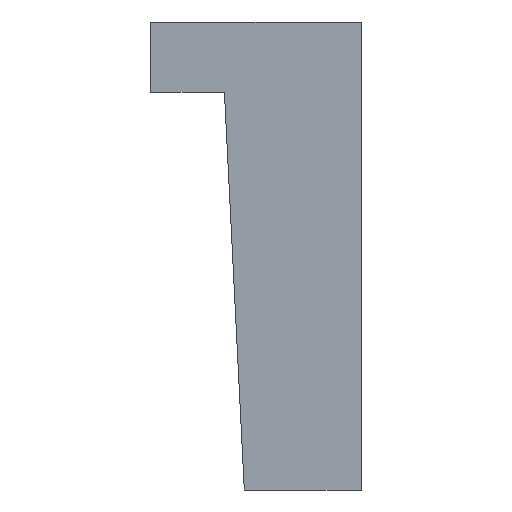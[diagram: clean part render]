
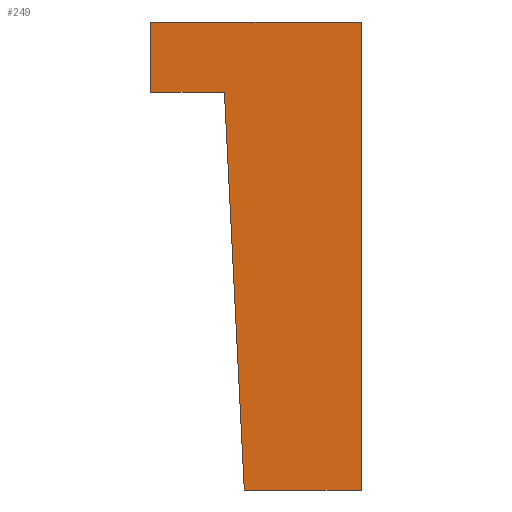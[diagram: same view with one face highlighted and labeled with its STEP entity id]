
A CAD part, front view. The second image highlights one B-rep face of the part: STEP entity #249.
In plain terms, the highlighted planar face has unit normal (0, -1, 0).
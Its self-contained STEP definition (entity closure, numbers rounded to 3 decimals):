
#24 = VERTEX_POINT('',#25);
#25 = CARTESIAN_POINT('',(0.,-3.,20.));
#31 = EDGE_CURVE('',#24,#32,#34,.T.);
#32 = VERTEX_POINT('',#33);
#33 = CARTESIAN_POINT('',(-6.,-3.,20.));
#34 = LINE('',#35,#36);
#35 = CARTESIAN_POINT('',(0.,-3.,20.));
#36 = VECTOR('',#37,1.);
#37 = DIRECTION('',(-1.,0.,0.));
#62 = EDGE_CURVE('',#32,#63,#65,.T.);
#63 = VERTEX_POINT('',#64);
#64 = CARTESIAN_POINT('',(-9.,-3.,20.));
#65 = LINE('',#66,#67);
#66 = CARTESIAN_POINT('',(-6.,-3.,20.));
#67 = VECTOR('',#68,1.);
#68 = DIRECTION('',(-1.,0.,0.));
#93 = EDGE_CURVE('',#63,#94,#96,.T.);
#94 = VERTEX_POINT('',#95);
#95 = CARTESIAN_POINT('',(-9.,-3.,17.));
#96 = LINE('',#97,#98);
#97 = CARTESIAN_POINT('',(-9.,-3.,20.));
#98 = VECTOR('',#99,1.);
#99 = DIRECTION('',(0.,0.,-1.));
#124 = EDGE_CURVE('',#94,#125,#127,.T.);
#125 = VERTEX_POINT('',#126);
#126 = CARTESIAN_POINT('',(-5.85,-3.,17.));
#127 = LINE('',#128,#129);
#128 = CARTESIAN_POINT('',(-9.,-3.,17.));
#129 = VECTOR('',#130,1.);
#130 = DIRECTION('',(1.,0.,0.));
#155 = EDGE_CURVE('',#125,#156,#158,.T.);
#156 = VERTEX_POINT('',#157);
#157 = CARTESIAN_POINT('',(-5.,-3.,0.));
#158 = LINE('',#159,#160);
#159 = CARTESIAN_POINT('',(-5.85,-3.,17.));
#160 = VECTOR('',#161,1.);
#161 = DIRECTION('',(0.05,0.,-0.999));
#186 = EDGE_CURVE('',#156,#187,#189,.T.);
#187 = VERTEX_POINT('',#188);
#188 = CARTESIAN_POINT('',(0.,-3.,0.));
#189 = LINE('',#190,#191);
#190 = CARTESIAN_POINT('',(-5.,-3.,0.));
#191 = VECTOR('',#192,1.);
#192 = DIRECTION('',(1.,0.,0.));
#217 = EDGE_CURVE('',#187,#24,#218,.T.);
#218 = LINE('',#219,#220);
#219 = CARTESIAN_POINT('',(0.,-3.,0.));
#220 = VECTOR('',#221,1.);
#221 = DIRECTION('',(0.,0.,1.));
#249 = ADVANCED_FACE('',(#250),#259,.F.);
#250 = FACE_BOUND('',#251,.T.);
#251 = EDGE_LOOP('',(#252,#253,#254,#255,#256,#257,#258));
#252 = ORIENTED_EDGE('',*,*,#31,.T.);
#253 = ORIENTED_EDGE('',*,*,#62,.T.);
#254 = ORIENTED_EDGE('',*,*,#93,.T.);
#255 = ORIENTED_EDGE('',*,*,#124,.T.);
#256 = ORIENTED_EDGE('',*,*,#155,.T.);
#257 = ORIENTED_EDGE('',*,*,#186,.T.);
#258 = ORIENTED_EDGE('',*,*,#217,.T.);
#259 = PLANE('',#260);
#260 = AXIS2_PLACEMENT_3D('',#261,#262,#263);
#261 = CARTESIAN_POINT('',(-3.424,-3.,11.085));
#262 = DIRECTION('',(0.,1.,0.));
#263 = DIRECTION('',(0.,0.,1.));
